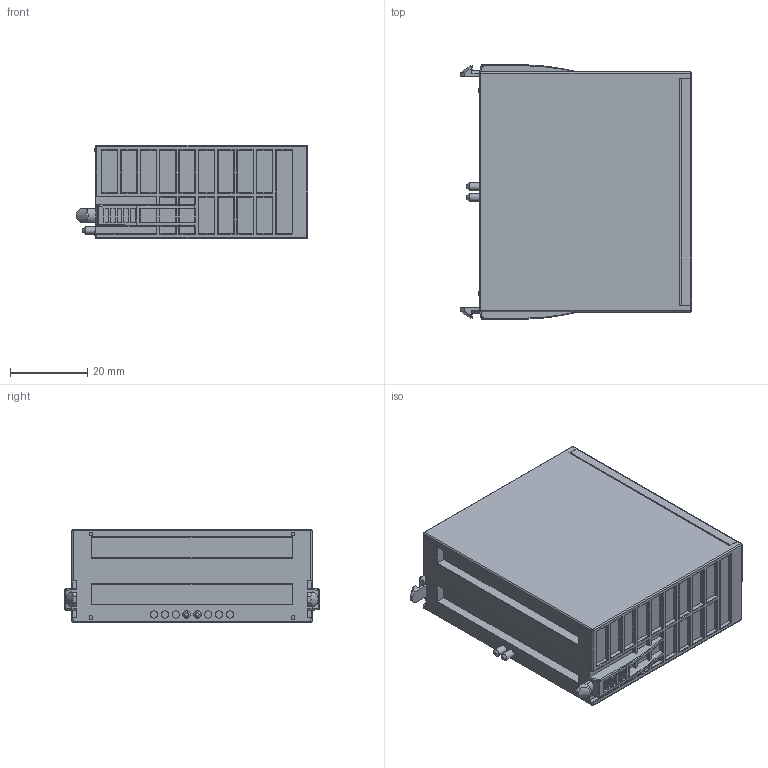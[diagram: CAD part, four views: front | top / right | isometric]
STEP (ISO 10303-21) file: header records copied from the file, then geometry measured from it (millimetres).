
FILE_DESCRIPTION(/* description */ ('EtherCAT-Steckmodul 24 mm 2x 16 pin code 45'),/* implementation_level */ '2;1');
FILE_NAME(/* name */ 'E:\ej_24_2x16pin_Code45.stp',/* time_stamp */ '2021-03-01T10:44:39+01:00',/* author */ ('LarsSo'),/* organization */ (''),/* preprocessor_version */ 'ST-DEVELOPER v18.1',/* originating_system */ 'Autodesk Inventor 2020',/* authorisation */ '');
FILE_SCHEMA (('AUTOMOTIVE_DESIGN { 1 0 10303 214 3 1 1 }'));
Length unit declared in the file: millimetre
Products named in the file (1): 0000000979_EJ_24_2x16pin_Code45_vereinfacht
Bounding box: 59.72 x 66 x 24.1 mm (x, y, z)
Volume: 78969.8 mm3; surface area: 14804.3 mm2
Topology: 1 solids, 1 shells, 748 faces, 1929 edges, 1239 vertices
Faces by surface type: plane 435, cylinder 226, bspline 73, sphere 8, cone 6
Full cylindrical faces by diameter (mm): 1.904 x8
Entity records: 24964 total; most frequent: CARTESIAN_POINT 6841, ORIENTED_EDGE 3858, DIRECTION 3518, EDGE_CURVE 1929, LINE 1372, VECTOR 1372, VERTEX_POINT 1239, AXIS2_PLACEMENT_3D 1073
